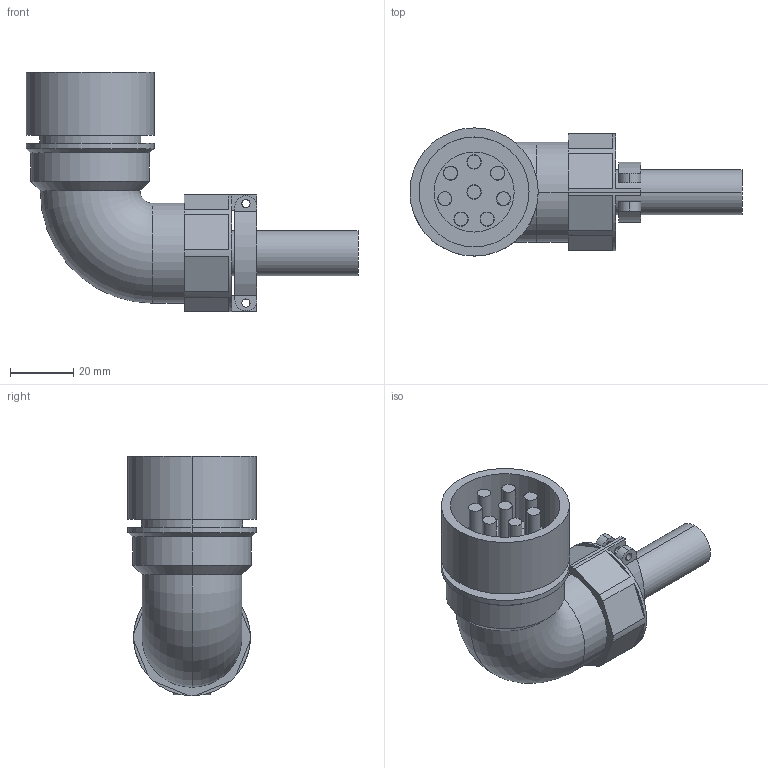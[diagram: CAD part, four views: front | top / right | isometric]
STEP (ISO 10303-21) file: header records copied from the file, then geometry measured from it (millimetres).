
FILE_DESCRIPTION (( 'STEP AP214' ), '1' );
FILE_NAME ('3108A22-23S.STEP', '2023-02-17T05:06:39', ( 'Windows User' ), ( 'P R C' ), 'SwSTEP 2.0', 'SolidWorks 2019', '' );
FILE_SCHEMA (( 'AUTOMOTIVE_DESIGN' ));
Length unit declared in the file: millimetre
Products named in the file (1): 3108A22-23S
Bounding box: 105.14 x 40.6 x 75.84 mm (x, y, z)
Volume: 85291.4 mm3; surface area: 21615.1 mm2
Topology: 3 solids, 3 shells, 140 faces, 326 edges, 214 vertices
Faces by surface type: cylinder 74, plane 60, cone 4, torus 2
Entity records: 4138 total; most frequent: DIRECTION 780, CARTESIAN_POINT 681, ORIENTED_EDGE 652, EDGE_CURVE 326, AXIS2_PLACEMENT_3D 313, VERTEX_POINT 214, EDGE_LOOP 174, CIRCLE 172
